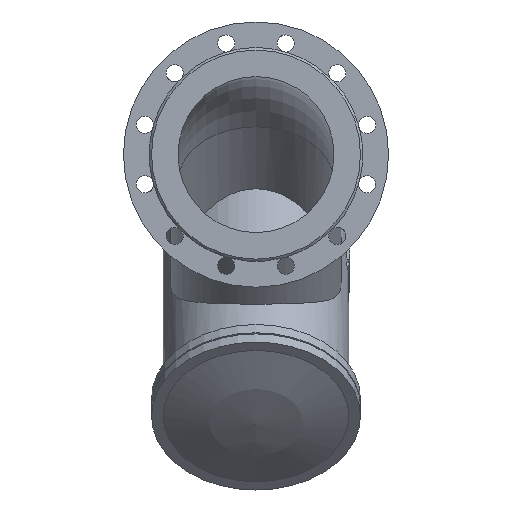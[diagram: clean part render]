
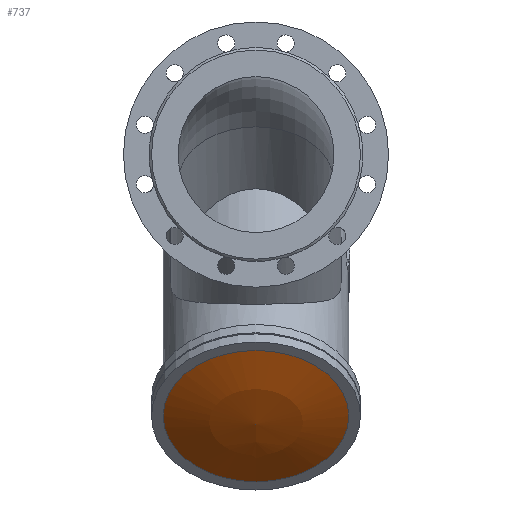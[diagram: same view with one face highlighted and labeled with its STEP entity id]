
A CAD part, front view. The second image highlights one B-rep face of the part: STEP entity #737.
In plain terms, the highlighted spherical face has radius 479.533 mm.
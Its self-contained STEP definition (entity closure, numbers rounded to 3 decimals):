
#737=ADVANCED_FACE('',(#1484),#1486,.T.);
#1484=FACE_OUTER_BOUND('',#1485,.T.);
#1485=EDGE_LOOP('',(#1978));
#1486=SPHERICAL_SURFACE('',#1487,479.533);
#1487=AXIS2_PLACEMENT_3D('',#1488,#1489,#1490);
#1488=CARTESIAN_POINT('',(0.,173.227,-6.773));
#1489=DIRECTION('',(0.,-0.707,-0.707));
#1490=DIRECTION('',(0.,0.707,-0.707));
#1978=ORIENTED_EDGE('',*,*,#2206,.T.);
#2206=EDGE_CURVE('',#2596,#2596,#2597,.T.);
#2596=VERTEX_POINT('',#5656);
#2597=CIRCLE('',#5657,119.);
#5656=CARTESIAN_POINT('',(0.,-71.102,-419.393));
#5657=AXIS2_PLACEMENT_3D('',#5658,#5659,#5660);
#5658=CARTESIAN_POINT('',(0.,-155.248,-335.248));
#5659=DIRECTION('',(0.,-0.707,-0.707));
#5660=DIRECTION('',(0.,0.707,-0.707));
